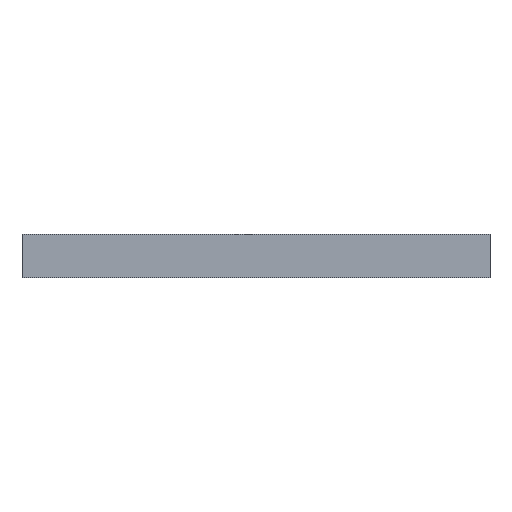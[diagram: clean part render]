
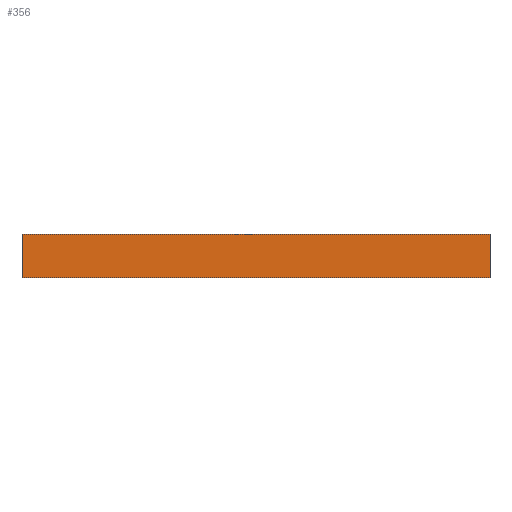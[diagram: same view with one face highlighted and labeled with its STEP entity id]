
A CAD part, top view. The second image highlights one B-rep face of the part: STEP entity #356.
In plain terms, the highlighted planar face has unit normal (0, 0, 1).
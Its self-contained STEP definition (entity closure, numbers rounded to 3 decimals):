
#42 = VERTEX_POINT('',#43);
#43 = CARTESIAN_POINT('',(0.,0.,0.6));
#50 = PLANE('',#51);
#51 = AXIS2_PLACEMENT_3D('',#52,#53,#54);
#52 = CARTESIAN_POINT('',(0.,0.,0.));
#53 = DIRECTION('',(1.,0.,-0.));
#54 = DIRECTION('',(0.,0.,1.));
#62 = PLANE('',#63);
#63 = AXIS2_PLACEMENT_3D('',#64,#65,#66);
#64 = CARTESIAN_POINT('',(0.,0.,0.));
#65 = DIRECTION('',(-0.,1.,0.));
#66 = DIRECTION('',(0.,0.,1.));
#103 = VERTEX_POINT('',#104);
#104 = CARTESIAN_POINT('',(0.,10.3,0.6));
#118 = PLANE('',#119);
#119 = AXIS2_PLACEMENT_3D('',#120,#121,#122);
#120 = CARTESIAN_POINT('',(0.,10.3,0.));
#121 = DIRECTION('',(-0.,1.,0.));
#122 = DIRECTION('',(0.,0.,1.));
#130 = EDGE_CURVE('',#42,#103,#131,.T.);
#131 = SURFACE_CURVE('',#132,(#136,#143),.PCURVE_S1.);
#132 = LINE('',#133,#134);
#133 = CARTESIAN_POINT('',(0.,0.,0.6));
#134 = VECTOR('',#135,1.);
#135 = DIRECTION('',(-0.,1.,0.));
#136 = PCURVE('',#50,#137);
#137 = DEFINITIONAL_REPRESENTATION('',(#138),#142);
#138 = LINE('',#139,#140);
#139 = CARTESIAN_POINT('',(0.6,0.));
#140 = VECTOR('',#141,1.);
#141 = DIRECTION('',(0.,-1.));
#142 = ( GEOMETRIC_REPRESENTATION_CONTEXT(2) 
PARAMETRIC_REPRESENTATION_CONTEXT() REPRESENTATION_CONTEXT('2D SPACE',''
  ) );
#143 = PCURVE('',#144,#149);
#144 = PLANE('',#145);
#145 = AXIS2_PLACEMENT_3D('',#146,#147,#148);
#146 = CARTESIAN_POINT('',(0.,0.,0.6));
#147 = DIRECTION('',(0.,0.,1.));
#148 = DIRECTION('',(1.,0.,-0.));
#149 = DEFINITIONAL_REPRESENTATION('',(#150),#154);
#150 = LINE('',#151,#152);
#151 = CARTESIAN_POINT('',(0.,0.));
#152 = VECTOR('',#153,1.);
#153 = DIRECTION('',(0.,1.));
#154 = ( GEOMETRIC_REPRESENTATION_CONTEXT(2) 
PARAMETRIC_REPRESENTATION_CONTEXT() REPRESENTATION_CONTEXT('2D SPACE',''
  ) );
#162 = VERTEX_POINT('',#163);
#163 = CARTESIAN_POINT('',(109.85,0.,0.6));
#170 = PLANE('',#171);
#171 = AXIS2_PLACEMENT_3D('',#172,#173,#174);
#172 = CARTESIAN_POINT('',(109.85,0.,0.));
#173 = DIRECTION('',(1.,0.,-0.));
#174 = DIRECTION('',(0.,0.,1.));
#213 = VERTEX_POINT('',#214);
#214 = CARTESIAN_POINT('',(109.85,10.3,0.6));
#235 = EDGE_CURVE('',#162,#213,#236,.T.);
#236 = SURFACE_CURVE('',#237,(#241,#248),.PCURVE_S1.);
#237 = LINE('',#238,#239);
#238 = CARTESIAN_POINT('',(109.85,0.,0.6));
#239 = VECTOR('',#240,1.);
#240 = DIRECTION('',(-0.,1.,0.));
#241 = PCURVE('',#170,#242);
#242 = DEFINITIONAL_REPRESENTATION('',(#243),#247);
#243 = LINE('',#244,#245);
#244 = CARTESIAN_POINT('',(0.6,0.));
#245 = VECTOR('',#246,1.);
#246 = DIRECTION('',(0.,-1.));
#247 = ( GEOMETRIC_REPRESENTATION_CONTEXT(2) 
PARAMETRIC_REPRESENTATION_CONTEXT() REPRESENTATION_CONTEXT('2D SPACE',''
  ) );
#248 = PCURVE('',#144,#249);
#249 = DEFINITIONAL_REPRESENTATION('',(#250),#254);
#250 = LINE('',#251,#252);
#251 = CARTESIAN_POINT('',(109.85,0.));
#252 = VECTOR('',#253,1.);
#253 = DIRECTION('',(0.,1.));
#254 = ( GEOMETRIC_REPRESENTATION_CONTEXT(2) 
PARAMETRIC_REPRESENTATION_CONTEXT() REPRESENTATION_CONTEXT('2D SPACE',''
  ) );
#281 = EDGE_CURVE('',#42,#162,#282,.T.);
#282 = SURFACE_CURVE('',#283,(#287,#294),.PCURVE_S1.);
#283 = LINE('',#284,#285);
#284 = CARTESIAN_POINT('',(0.,0.,0.6));
#285 = VECTOR('',#286,1.);
#286 = DIRECTION('',(1.,0.,-0.));
#287 = PCURVE('',#62,#288);
#288 = DEFINITIONAL_REPRESENTATION('',(#289),#293);
#289 = LINE('',#290,#291);
#290 = CARTESIAN_POINT('',(0.6,0.));
#291 = VECTOR('',#292,1.);
#292 = DIRECTION('',(0.,1.));
#293 = ( GEOMETRIC_REPRESENTATION_CONTEXT(2) 
PARAMETRIC_REPRESENTATION_CONTEXT() REPRESENTATION_CONTEXT('2D SPACE',''
  ) );
#294 = PCURVE('',#144,#295);
#295 = DEFINITIONAL_REPRESENTATION('',(#296),#300);
#296 = LINE('',#297,#298);
#297 = CARTESIAN_POINT('',(0.,0.));
#298 = VECTOR('',#299,1.);
#299 = DIRECTION('',(1.,0.));
#300 = ( GEOMETRIC_REPRESENTATION_CONTEXT(2) 
PARAMETRIC_REPRESENTATION_CONTEXT() REPRESENTATION_CONTEXT('2D SPACE',''
  ) );
#328 = EDGE_CURVE('',#103,#213,#329,.T.);
#329 = SURFACE_CURVE('',#330,(#334,#341),.PCURVE_S1.);
#330 = LINE('',#331,#332);
#331 = CARTESIAN_POINT('',(0.,10.3,0.6));
#332 = VECTOR('',#333,1.);
#333 = DIRECTION('',(1.,0.,-0.));
#334 = PCURVE('',#118,#335);
#335 = DEFINITIONAL_REPRESENTATION('',(#336),#340);
#336 = LINE('',#337,#338);
#337 = CARTESIAN_POINT('',(0.6,0.));
#338 = VECTOR('',#339,1.);
#339 = DIRECTION('',(0.,1.));
#340 = ( GEOMETRIC_REPRESENTATION_CONTEXT(2) 
PARAMETRIC_REPRESENTATION_CONTEXT() REPRESENTATION_CONTEXT('2D SPACE',''
  ) );
#341 = PCURVE('',#144,#342);
#342 = DEFINITIONAL_REPRESENTATION('',(#343),#347);
#343 = LINE('',#344,#345);
#344 = CARTESIAN_POINT('',(0.,10.3));
#345 = VECTOR('',#346,1.);
#346 = DIRECTION('',(1.,0.));
#347 = ( GEOMETRIC_REPRESENTATION_CONTEXT(2) 
PARAMETRIC_REPRESENTATION_CONTEXT() REPRESENTATION_CONTEXT('2D SPACE',''
  ) );
#356 = ADVANCED_FACE('',(#357),#144,.T.);
#357 = FACE_BOUND('',#358,.T.);
#358 = EDGE_LOOP('',(#359,#360,#361,#362));
#359 = ORIENTED_EDGE('',*,*,#130,.F.);
#360 = ORIENTED_EDGE('',*,*,#281,.T.);
#361 = ORIENTED_EDGE('',*,*,#235,.T.);
#362 = ORIENTED_EDGE('',*,*,#328,.F.);
